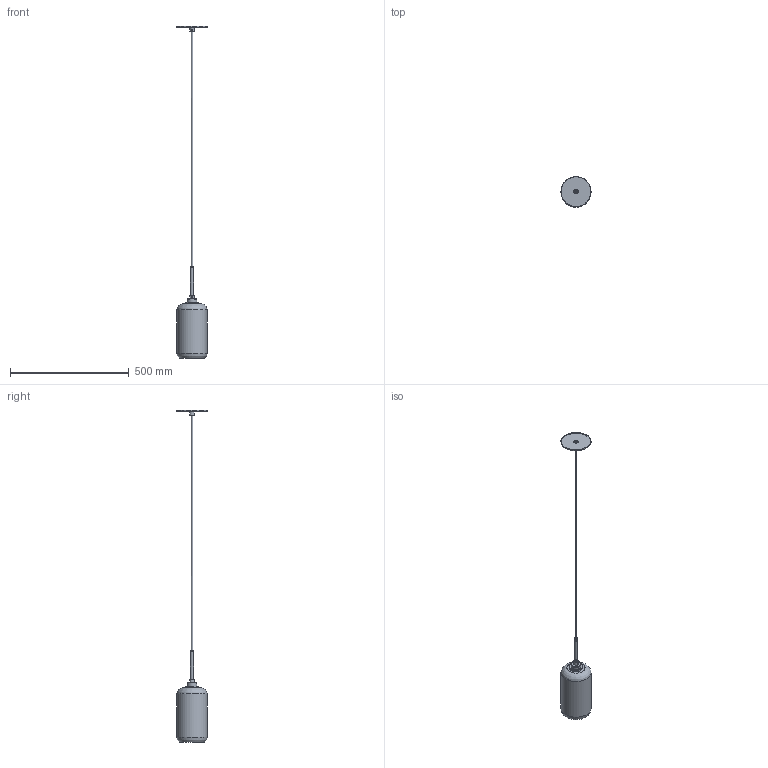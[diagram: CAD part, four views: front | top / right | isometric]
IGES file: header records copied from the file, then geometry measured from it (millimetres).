
Global section: file name: Niche - Helio Pendant; native system: unknown; preprocessor: unknown; author: unknown; organization: unknown; date: 20220801.124036; units: inch
Bounding box: 127 x 126.67 x 1399.54 mm (x, y, z)
Volume: 506493.6 mm3; surface area: 307945.8 mm2
Topology: 11 solids, 11 shells, 137 faces, 332 edges, 221 vertices
Faces by surface type: bspline 137
